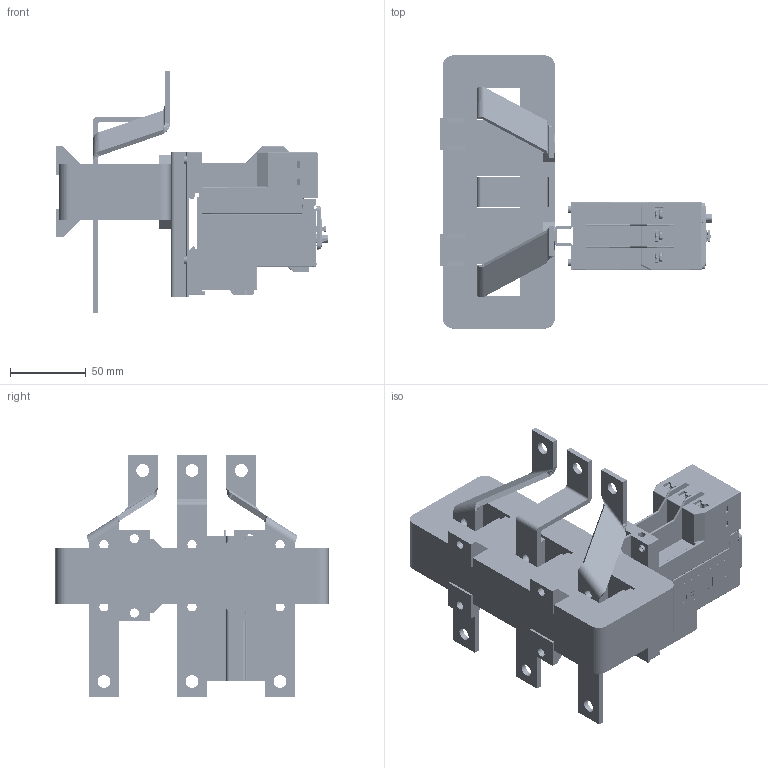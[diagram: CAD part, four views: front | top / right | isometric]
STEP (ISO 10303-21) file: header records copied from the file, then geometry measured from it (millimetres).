
FILE_DESCRIPTION(/* description */ (''),/* implementation_level */ '2;1');
FILE_NAME(/* name */ 'HGT150AF.stp',/* time_stamp */ '2017-12-06T11:46:51+09:00',/* author */ (''),/* organization */ (''),/* preprocessor_version */ 'ST-DEVELOPER v15',/* originating_system */ 'SIEMENS PLM Software NX 9.0',/* authorisation */ '');
FILE_SCHEMA (('CONFIG_CONTROL_DESIGN'));
Products named in the file (1): HGT150AF
Bounding box: 178.85 x 180 x 159 mm (x, y, z)
Volume: 664621.3 mm3; surface area: 227193.4 mm2
Topology: 53 solids, 68 shells, 8602 faces, 23488 edges, 15162 vertices
Faces by surface type: plane 5759, cylinder 2026, bspline 378, torus 168, extrusion 100, cone 99, sphere 72
Full cylindrical faces by diameter (mm): 1.8 x4, 2.1 x1, 3 x14, 4 x7, 5 x12, 5.5 x2, 5.7 x1, 6 x10, 6.5 x1, 6.7 x5, 6.8 x4, 7 x1, 8 x6, 8.5 x6, 12 x1
Entity records: 308121 total; most frequent: CARTESIAN_POINT 92006, ORIENTED_EDGE 46602, DIRECTION 42507, EDGE_CURVE 23301, VECTOR 16985, LINE 16885, VERTEX_POINT 15128, AXIS2_PLACEMENT_3D 12761
